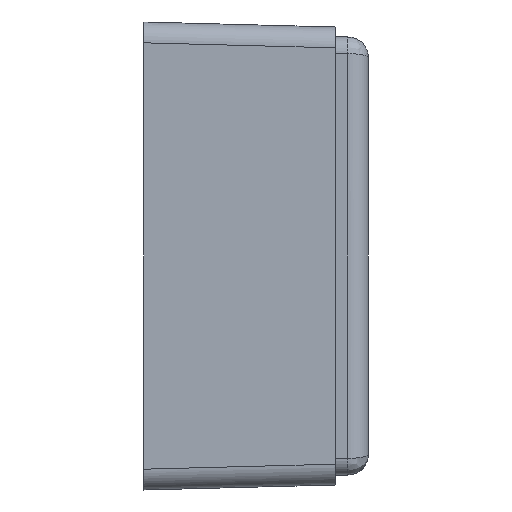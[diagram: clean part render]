
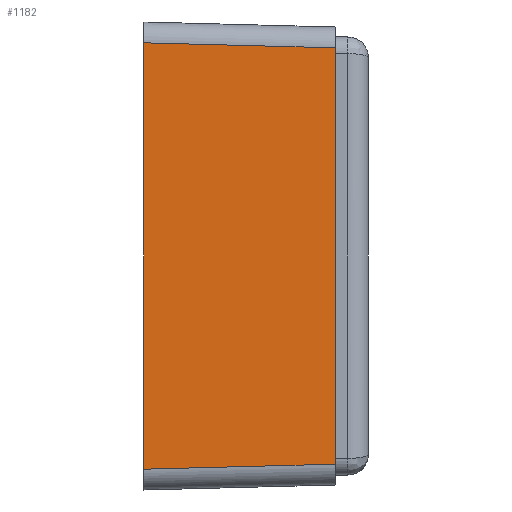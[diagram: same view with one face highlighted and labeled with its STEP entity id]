
A CAD part, left-side view. The second image highlights one B-rep face of the part: STEP entity #1182.
In plain terms, the highlighted planar face has unit normal (-1, -0.026, 0).
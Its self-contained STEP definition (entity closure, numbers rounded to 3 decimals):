
#36 = VERTEX_POINT ( 'NONE', #1169 ) ;
#89 = VECTOR ( 'NONE', #475, 1000. ) ;
#102 = CARTESIAN_POINT ( 'NONE',  ( -59.698, -23., -24.999 ) ) ;
#299 = EDGE_CURVE ( 'NONE', #1251, #562, #584, .T. ) ;
#320 = CARTESIAN_POINT ( 'NONE',  ( -59.698, -23., -28.1 ) ) ;
#340 = DIRECTION ( 'NONE',  ( 0., 0., 1. ) ) ;
#445 = CARTESIAN_POINT ( 'NONE',  ( -59.698, -23., 24.999 ) ) ;
#475 = DIRECTION ( 'NONE',  ( 0.026, -0.999, 0.026 ) ) ;
#508 = LINE ( 'NONE', #1886, #89 ) ;
#550 = DIRECTION ( 'NONE',  ( -0.026, 0.999, 0.026 ) ) ;
#554 = VECTOR ( 'NONE', #550, 1000. ) ;
#562 = VERTEX_POINT ( 'NONE', #102 ) ;
#584 = LINE ( 'NONE', #320, #1357 ) ;
#675 = FACE_OUTER_BOUND ( 'NONE', #1425, .T. ) ;
#689 = LINE ( 'NONE', #1089, #1506 ) ;
#784 = DIRECTION ( 'NONE',  ( 0., 0., -1. ) ) ;
#798 = EDGE_CURVE ( 'NONE', #36, #1737, #689, .T. ) ;
#833 = CARTESIAN_POINT ( 'NONE',  ( -60.3, 0., 25.601 ) ) ;
#1037 = PLANE ( 'NONE',  #1389 ) ;
#1044 = CARTESIAN_POINT ( 'NONE',  ( -60.3, 0., -28.1 ) ) ;
#1057 = ORIENTED_EDGE ( 'NONE', *, *, #798, .F. ) ;
#1089 = CARTESIAN_POINT ( 'NONE',  ( -60.3, 0., -28.1 ) ) ;
#1164 = ORIENTED_EDGE ( 'NONE', *, *, #299, .F. ) ;
#1169 = CARTESIAN_POINT ( 'NONE',  ( -60.3, 0., -25.601 ) ) ;
#1182 = ADVANCED_FACE ( 'NONE', ( #675 ), #1037, .T. ) ;
#1207 = DIRECTION ( 'NONE',  ( -1., -0.026, 0. ) ) ;
#1213 = ORIENTED_EDGE ( 'NONE', *, *, #1560, .T. ) ;
#1251 = VERTEX_POINT ( 'NONE', #445 ) ;
#1345 = DIRECTION ( 'NONE',  ( 0.026, -1., 0. ) ) ;
#1357 = VECTOR ( 'NONE', #784, 1000. ) ;
#1389 = AXIS2_PLACEMENT_3D ( 'NONE', #1044, #1207, #1345 ) ;
#1425 = EDGE_LOOP ( 'NONE', ( #1057, #1855, #1164, #1213 ) ) ;
#1506 = VECTOR ( 'NONE', #340, 1000. ) ;
#1560 = EDGE_CURVE ( 'NONE', #1251, #1737, #1778, .T. ) ;
#1620 = EDGE_CURVE ( 'NONE', #36, #562, #508, .T. ) ;
#1737 = VERTEX_POINT ( 'NONE', #833 ) ;
#1778 = LINE ( 'NONE', #1790, #554 ) ;
#1790 = CARTESIAN_POINT ( 'NONE',  ( -60.263, -1.404, 25.564 ) ) ;
#1855 = ORIENTED_EDGE ( 'NONE', *, *, #1620, .T. ) ;
#1886 = CARTESIAN_POINT ( 'NONE',  ( -60.302, 0.065, -25.603 ) ) ;
